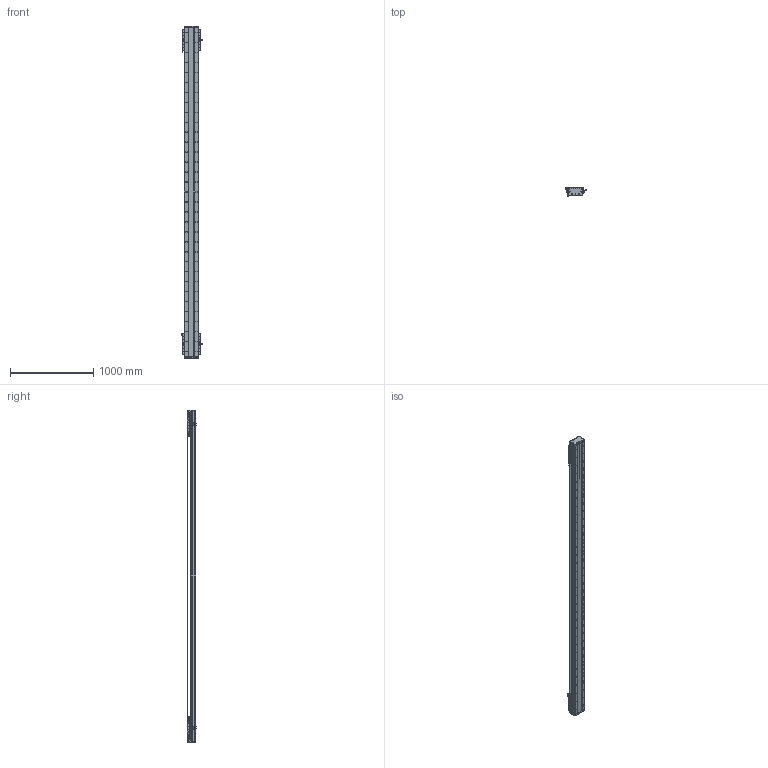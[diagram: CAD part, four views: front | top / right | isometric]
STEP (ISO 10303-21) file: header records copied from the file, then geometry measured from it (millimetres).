
FILE_DESCRIPTION (( 'STEP AP203' ), '1' );
FILE_NAME ('DA-C165-2-C3-T3380-C010-0.2 直线电机.STEP', '2023-06-13T09:08:30', ( '微软用户' ), ( '微软中国' ), 'SwSTEP 2.0', 'SolidWorks 2019', '' );
FILE_SCHEMA (( 'CONFIG_CONTROL_DESIGN' ));
Length unit declared in the file: millimetre
Products named in the file (22): 复件 DA165-GDYK-00 钢带压块^复件 CU165钢带组件_DA-C165-C3-T-C010-0.2-N 直线电机; 复件 DA165-GD-DG-H-00 端盖^复件 CU165钢带组件_DA-C165-C3-T-C010-0.2-N 直线电机; DA-C165-2-C3-T3380-C010-0.2 眻盄萇儂; 复件 DA165-GDLK-00 钢带拉块^复件 CU165钢带组件_DA-C165-C3-T-C010-0.2-N 直线电机; 葩璃 PM-T45^DA-C165-C3-T-C010-0.2-N 眻盄萇儂; 珨极趙賑雄怢啣C3-wf; 复件 DMA-010-0.2 读数头^DA-C165-C3-T-C010-0.2-N 直线电机; 复件 XD-U-02L 磁栅尺^DA-C165-C3-T-C010-0.2-N 直线电机_T; 复件 66338-1000-006-00 光电感应块^DA-C165-C3-T-C010-0.2-N 直线电机; 复件 DA165-GYP-00 光电感应片^DA-C165-C3-T-C010-0.2-N 直线电机; 复件 CU165钢带组件^DA-C165-C3-T-C010-0.2-N 直线电机; IU-CU165-L 菁釱絳寢; 复件 DKW-HXJ-JY-00 缓冲橡胶^DA-C165-C3-T-C010-0.2-N 直线电机; 葩璃 PM-Y45^DA-C165-C3-T-C010-0.2-N 眻盄萇儂; 葩璃 CKM01-W075-TRL^DA-C165-C3-T-C010-0.2-N 眻盄萇儂; 复件 CU165 底座^IU-CU165-L 底座导轨_L3960; 复件 DA165-GD-1860-002-00 钢带盖板^复件 CU165钢带组件_DA-C165-C3-T-C010-0.2-N 直线电机; 葩璃 CKM03-W075-C1C2-TP-3.0^DA-C165-C3-T-C010-0.2-N 眻盄萇儂; 复件 DA95-HXJ-00 缓冲橡胶^DA-C165-C3-T-C010-0.2-N 直线电机; 复件 六角薄螺母 M3^DA-C165-C3-T-C010-0.2-N 直线电机_GB_FASTENER_NUT_STNAB M3-C; 葩璃 DA95-GT-T-00^IU-CU165-L 菁釱絳寢_T; 复件 DA126-GYP-ZJ-00 中间光电感应片^DA-C165-C3-T-C010-0.2-N 直线电机
Assembly tree (45 placements, depth 3):
  DA-C165-2-C3-T3380-C010-0.2 眻盄萇儂
    IU-CU165-L 菁釱絳寢
      复件 CU165 底座^IU-CU165-L 底座导轨_L3960
      葩璃 DA95-GT-T-00^IU-CU165-L 菁釱絳寢_T  x4
    复件 XD-U-02L 磁栅尺^DA-C165-C3-T-C010-0.2-N 直线电机_T
    葩璃 PM-T45^DA-C165-C3-T-C010-0.2-N 眻盄萇儂  x4
    葩璃 CKM01-W075-TRL^DA-C165-C3-T-C010-0.2-N 眻盄萇儂
    复件 CU165钢带组件^DA-C165-C3-T-C010-0.2-N 直线电机
      复件 DA165-GD-DG-H-00 端盖^复件 CU165钢带组件_DA-C165-C3-T-C010-0.2-N 直线电机  x2
      复件 DA165-GDYK-00 钢带压块^复件 CU165钢带组件_DA-C165-C3-T-C010-0.2-N 直线电机  x2
      复件 DA165-GD-1860-002-00 钢带盖板^复件 CU165钢带组件_DA-C165-C3-T-C010-0.2-N 直线电机
      复件 DA165-GDLK-00 钢带拉块^复件 CU165钢带组件_DA-C165-C3-T-C010-0.2-N 直线电机  x2
    复件 DA95-HXJ-00 缓冲橡胶^DA-C165-C3-T-C010-0.2-N 直线电机  x4
    复件 DMA-010-0.2 读数头^DA-C165-C3-T-C010-0.2-N 直线电机  x2
    复件 DA165-GYP-00 光电感应片^DA-C165-C3-T-C010-0.2-N 直线电机  x2
    复件 66338-1000-006-00 光电感应块^DA-C165-C3-T-C010-0.2-N 直线电机
    葩璃 PM-Y45^DA-C165-C3-T-C010-0.2-N 眻盄萇儂
    复件 DA126-GYP-ZJ-00 中间光电感应片^DA-C165-C3-T-C010-0.2-N 直线电机
    葩璃 CKM03-W075-C1C2-TP-3.0^DA-C165-C3-T-C010-0.2-N 眻盄萇儂  x2
    复件 DKW-HXJ-JY-00 缓冲橡胶^DA-C165-C3-T-C010-0.2-N 直线电机  x2
    复件 六角薄螺母 M3^DA-C165-C3-T-C010-0.2-N 直线电机_GB_FASTENER_NUT_STNAB M3-C  x8
    珨极趙賑雄怢啣C3-wf  x2
Bounding box: 247.2 x 111.45 x 4000 mm (x, y, z)
Volume: 23830096.2 mm3; surface area: 6981303.4 mm2
Topology: 121 solids, 221 shells, 7241 faces, 20468 edges, 12868 vertices
Faces by surface type: cylinder 4110, plane 2063, cone 980, torus 80, sphere 8
Entity records: 182656 total; most frequent: CARTESIAN_POINT 51817, ORIENTED_EDGE 27520, DIRECTION 26136, EDGE_CURVE 13760, AXIS2_PLACEMENT_3D 10053, VERTEX_POINT 9022, EDGE_LOOP 6284, LINE 6030
